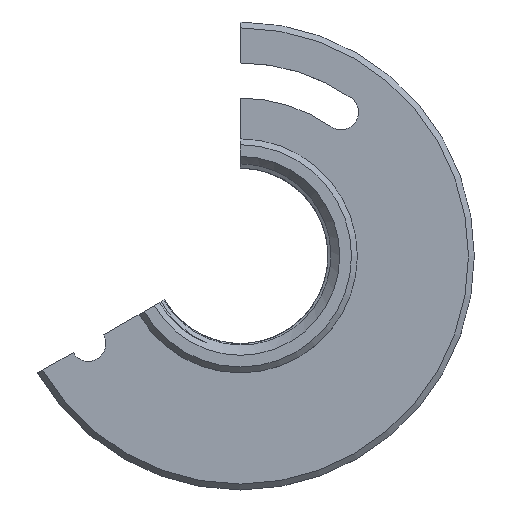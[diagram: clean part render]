
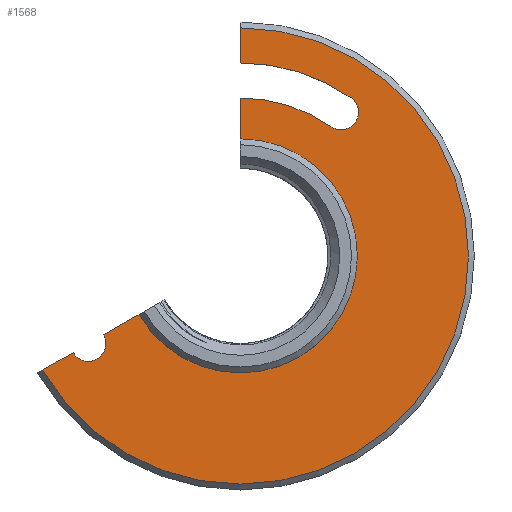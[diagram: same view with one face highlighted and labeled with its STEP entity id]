
A CAD part, top view. The second image highlights one B-rep face of the part: STEP entity #1568.
In plain terms, the highlighted planar face has unit normal (0, 0, 1).
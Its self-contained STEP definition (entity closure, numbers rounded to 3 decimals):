
#243=LINE('',#3174,#312);
#244=LINE('',#3179,#313);
#245=LINE('',#3187,#314);
#246=LINE('',#3191,#315);
#312=VECTOR('',#1753,1000.);
#313=VECTOR('',#1756,1000.);
#314=VECTOR('',#1763,1000.);
#315=VECTOR('',#1766,1000.);
#495=ORIENTED_EDGE('',*,*,#802,.F.);
#496=ORIENTED_EDGE('',*,*,#803,.T.);
#497=ORIENTED_EDGE('',*,*,#804,.F.);
#498=ORIENTED_EDGE('',*,*,#805,.T.);
#499=ORIENTED_EDGE('',*,*,#806,.T.);
#500=ORIENTED_EDGE('',*,*,#807,.T.);
#501=ORIENTED_EDGE('',*,*,#808,.F.);
#502=ORIENTED_EDGE('',*,*,#809,.T.);
#503=ORIENTED_EDGE('',*,*,#810,.F.);
#504=ORIENTED_EDGE('',*,*,#811,.T.);
#802=EDGE_CURVE('',#938,#939,#243,.T.);
#803=EDGE_CURVE('',#938,#940,#974,.T.);
#804=EDGE_CURVE('',#941,#940,#244,.T.);
#805=EDGE_CURVE('',#941,#942,#975,.T.);
#806=EDGE_CURVE('',#942,#943,#976,.T.);
#807=EDGE_CURVE('',#943,#944,#977,.T.);
#808=EDGE_CURVE('',#945,#944,#245,.T.);
#809=EDGE_CURVE('',#945,#946,#978,.T.);
#810=EDGE_CURVE('',#947,#946,#246,.T.);
#811=EDGE_CURVE('',#947,#939,#979,.T.);
#938=VERTEX_POINT('',#3175);
#939=VERTEX_POINT('',#3176);
#940=VERTEX_POINT('',#3178);
#941=VERTEX_POINT('',#3180);
#942=VERTEX_POINT('',#3182);
#943=VERTEX_POINT('',#3184);
#944=VERTEX_POINT('',#3186);
#945=VERTEX_POINT('',#3188);
#946=VERTEX_POINT('',#3190);
#947=VERTEX_POINT('',#3192);
#974=CIRCLE('',#1617,39.);
#975=CIRCLE('',#1618,33.);
#976=CIRCLE('',#1619,3.);
#977=CIRCLE('',#1620,27.);
#978=CIRCLE('',#1621,20.);
#979=CIRCLE('',#1622,3.);
#1029=EDGE_LOOP('',(#495,#496,#497,#498,#499,#500,#501,#502,#503,#504));
#1088=FACE_BOUND('',#1029,.T.);
#1110=PLANE('',#1616);
#1568=ADVANCED_FACE('',(#1088),#1110,.T.);
#1616=AXIS2_PLACEMENT_3D('',#3173,#1751,#1752);
#1617=AXIS2_PLACEMENT_3D('',#3177,#1754,#1755);
#1618=AXIS2_PLACEMENT_3D('',#3181,#1757,#1758);
#1619=AXIS2_PLACEMENT_3D('',#3183,#1759,#1760);
#1620=AXIS2_PLACEMENT_3D('',#3185,#1761,#1762);
#1621=AXIS2_PLACEMENT_3D('',#3189,#1764,#1765);
#1622=AXIS2_PLACEMENT_3D('',#3193,#1767,#1768);
#1751=DIRECTION('',(0.,0.,1.));
#1752=DIRECTION('',(1.,0.,0.));
#1753=DIRECTION('',(0.866,0.5,0.));
#1754=DIRECTION('',(0.,0.,1.));
#1755=DIRECTION('',(1.,0.,0.));
#1756=DIRECTION('',(0.,1.,0.));
#1757=DIRECTION('',(0.,0.,-1.));
#1758=DIRECTION('',(1.,0.,0.));
#1759=DIRECTION('',(0.,0.,-1.));
#1760=DIRECTION('',(-1.,0.,0.));
#1761=DIRECTION('',(0.,0.,1.));
#1762=DIRECTION('',(1.,0.,0.));
#1763=DIRECTION('',(0.,1.,0.));
#1764=DIRECTION('',(0.,0.,-1.));
#1765=DIRECTION('',(-1.,0.,0.));
#1766=DIRECTION('',(0.866,0.5,0.));
#1767=DIRECTION('',(0.,0.,-1.));
#1768=DIRECTION('',(-1.,0.,0.));
#3173=CARTESIAN_POINT('',(40.,0.,5.));
#3174=CARTESIAN_POINT('',(30.,17.321,5.));
#3175=CARTESIAN_POINT('',(-33.775,-19.5,5.));
#3176=CARTESIAN_POINT('',(-28.579,-16.5,5.));
#3177=CARTESIAN_POINT('',(0.,0.,5.));
#3178=CARTESIAN_POINT('',(0.,39.,5.));
#3179=CARTESIAN_POINT('',(0.,0.,5.));
#3180=CARTESIAN_POINT('',(0.,33.,5.));
#3181=CARTESIAN_POINT('',(0.,0.,5.));
#3182=CARTESIAN_POINT('',(18.928,27.032,5.));
#3183=CARTESIAN_POINT('',(17.207,24.575,5.));
#3184=CARTESIAN_POINT('',(15.487,22.117,5.));
#3185=CARTESIAN_POINT('',(0.,0.,5.));
#3186=CARTESIAN_POINT('',(0.,27.,5.));
#3187=CARTESIAN_POINT('',(0.,0.,5.));
#3188=CARTESIAN_POINT('',(0.,20.,5.));
#3189=CARTESIAN_POINT('',(0.,0.,5.));
#3190=CARTESIAN_POINT('',(-17.321,-10.,5.));
#3191=CARTESIAN_POINT('',(30.,17.321,5.));
#3192=CARTESIAN_POINT('',(-23.383,-13.5,5.));
#3193=CARTESIAN_POINT('',(-25.981,-15.,5.));
